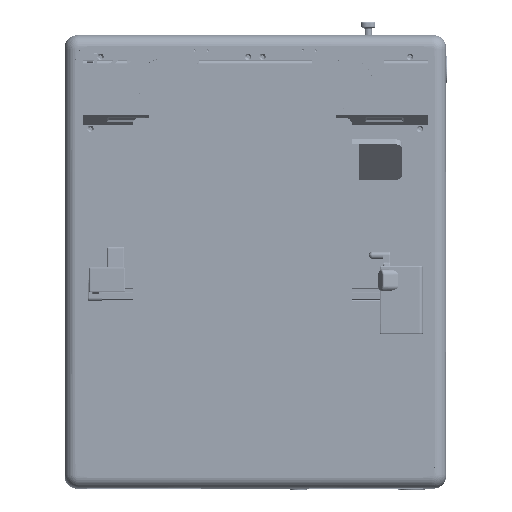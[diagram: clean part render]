
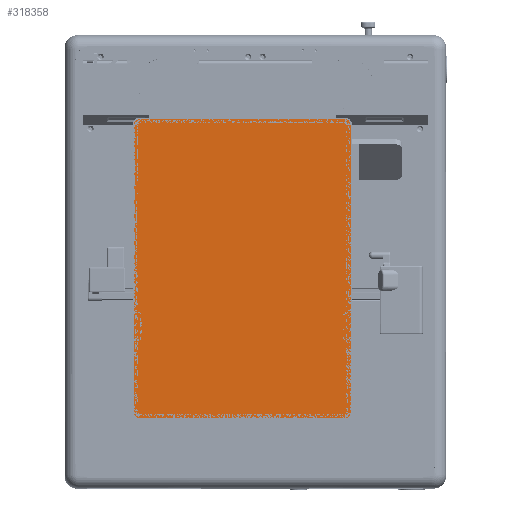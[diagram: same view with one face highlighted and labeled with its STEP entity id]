
A CAD part, front view. The second image highlights one B-rep face of the part: STEP entity #318358.
In plain terms, the highlighted planar face has unit normal (0, -1, 0).
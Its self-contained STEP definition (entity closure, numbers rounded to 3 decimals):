
#2085 = CARTESIAN_POINT ( 'NONE',  ( -182.897, -222.522, 656.878 ) ) ;
#5009 = VERTEX_POINT ( 'NONE', #2085 ) ;
#16185 = AXIS2_PLACEMENT_3D ( 'NONE', #365502, #31050, #328909 ) ;
#18919 = VECTOR ( 'NONE', #388959, 1000. ) ;
#20459 = CARTESIAN_POINT ( 'NONE',  ( -174.897, -222.522, 248.878 ) ) ;
#23859 = CIRCLE ( 'NONE', #16185, 8. ) ;
#28284 = CARTESIAN_POINT ( 'NONE',  ( -182.897, -222.522, 256.878 ) ) ;
#31050 = DIRECTION ( 'NONE',  ( 0., -1., 0. ) ) ;
#31232 = DIRECTION ( 'NONE',  ( 0., 0., -1. ) ) ;
#35067 = CARTESIAN_POINT ( 'NONE',  ( -174.897, -222.522, 256.878 ) ) ;
#36125 = VECTOR ( 'NONE', #31232, 1000. ) ;
#49997 = VERTEX_POINT ( 'NONE', #417604 ) ;
#53185 = VERTEX_POINT ( 'NONE', #156185 ) ;
#71944 = EDGE_CURVE ( 'NONE', #49997, #53185, #246618, .T. ) ;
#80833 = CIRCLE ( 'NONE', #221262, 8. ) ;
#82807 = AXIS2_PLACEMENT_3D ( 'NONE', #166469, #244559, #207916 ) ;
#96081 = DIRECTION ( 'NONE',  ( 0., 0., -1. ) ) ;
#108484 = LINE ( 'NONE', #257445, #18919 ) ;
#111403 = LINE ( 'NONE', #333624, #405465 ) ;
#126940 = EDGE_CURVE ( 'NONE', #130771, #253113, #108484, .T. ) ;
#130771 = VERTEX_POINT ( 'NONE', #20459 ) ;
#150839 = VERTEX_POINT ( 'NONE', #435112 ) ;
#152500 = DIRECTION ( 'NONE',  ( 0., 0., -1. ) ) ;
#156185 = CARTESIAN_POINT ( 'NONE',  ( 110.103, -222.522, 664.878 ) ) ;
#158288 = VERTEX_POINT ( 'NONE', #28284 ) ;
#158626 = EDGE_CURVE ( 'NONE', #206153, #5009, #80833, .T. ) ;
#159688 = PLANE ( 'NONE',  #446117 ) ;
#166469 = CARTESIAN_POINT ( 'NONE',  ( 110.103, -222.522, 656.878 ) ) ;
#186712 = VECTOR ( 'NONE', #250632, 1000. ) ;
#190496 = EDGE_CURVE ( 'NONE', #150839, #49997, #431407, .T. ) ;
#193910 = FACE_OUTER_BOUND ( 'NONE', #402828, .T. ) ;
#205996 = CARTESIAN_POINT ( 'NONE',  ( -174.897, -222.522, 656.878 ) ) ;
#206153 = VERTEX_POINT ( 'NONE', #268680 ) ;
#207916 = DIRECTION ( 'NONE',  ( 0., 0., -1. ) ) ;
#218189 = DIRECTION ( 'NONE',  ( 0., 0., -1. ) ) ;
#221262 = AXIS2_PLACEMENT_3D ( 'NONE', #205996, #433038, #96081 ) ;
#224217 = EDGE_CURVE ( 'NONE', #253113, #150839, #23859, .T. ) ;
#230588 = CARTESIAN_POINT ( 'NONE',  ( -174.897, -222.522, 256.878 ) ) ;
#231539 = ORIENTED_EDGE ( 'NONE', *, *, #280282, .T. ) ;
#234823 = EDGE_CURVE ( 'NONE', #5009, #158288, #324309, .T. ) ;
#244559 = DIRECTION ( 'NONE',  ( 0., -1., 0. ) ) ;
#246618 = CIRCLE ( 'NONE', #82807, 8. ) ;
#250632 = DIRECTION ( 'NONE',  ( 0., 0., 1. ) ) ;
#253113 = VERTEX_POINT ( 'NONE', #444203 ) ;
#257445 = CARTESIAN_POINT ( 'NONE',  ( -174.897, -222.522, 248.878 ) ) ;
#264459 = DIRECTION ( 'NONE',  ( 0., -1., 0. ) ) ;
#268680 = CARTESIAN_POINT ( 'NONE',  ( -174.897, -222.522, 664.878 ) ) ;
#280282 = EDGE_CURVE ( 'NONE', #158288, #130771, #424070, .T. ) ;
#292486 = CARTESIAN_POINT ( 'NONE',  ( -182.897, -222.522, 656.878 ) ) ;
#314562 = ORIENTED_EDGE ( 'NONE', *, *, #71944, .T. ) ;
#318358 = ADVANCED_FACE ( 'NONE', ( #193910 ), #159688, .T. ) ;
#323924 = CARTESIAN_POINT ( 'NONE',  ( 118.103, -222.522, 256.878 ) ) ;
#324309 = LINE ( 'NONE', #292486, #36125 ) ;
#328909 = DIRECTION ( 'NONE',  ( 0., 0., -1. ) ) ;
#333624 = CARTESIAN_POINT ( 'NONE',  ( 110.103, -222.522, 664.878 ) ) ;
#343066 = ORIENTED_EDGE ( 'NONE', *, *, #474533, .T. ) ;
#346003 = AXIS2_PLACEMENT_3D ( 'NONE', #35067, #264459, #218189 ) ;
#365502 = CARTESIAN_POINT ( 'NONE',  ( 110.103, -222.522, 256.878 ) ) ;
#369944 = ORIENTED_EDGE ( 'NONE', *, *, #158626, .T. ) ;
#379511 = DIRECTION ( 'NONE',  ( 0., -1., 0. ) ) ;
#388959 = DIRECTION ( 'NONE',  ( 1., 0., 0. ) ) ;
#389114 = ORIENTED_EDGE ( 'NONE', *, *, #190496, .T. ) ;
#402828 = EDGE_LOOP ( 'NONE', ( #231539, #415959, #458967, #389114, #314562, #343066, #369944, #459867 ) ) ;
#405465 = VECTOR ( 'NONE', #443512, 1000. ) ;
#415959 = ORIENTED_EDGE ( 'NONE', *, *, #126940, .T. ) ;
#417604 = CARTESIAN_POINT ( 'NONE',  ( 118.103, -222.522, 656.878 ) ) ;
#424070 = CIRCLE ( 'NONE', #346003, 8. ) ;
#431407 = LINE ( 'NONE', #323924, #186712 ) ;
#433038 = DIRECTION ( 'NONE',  ( 0., -1., 0. ) ) ;
#435112 = CARTESIAN_POINT ( 'NONE',  ( 118.103, -222.522, 256.878 ) ) ;
#443512 = DIRECTION ( 'NONE',  ( -1., 0., 0. ) ) ;
#444203 = CARTESIAN_POINT ( 'NONE',  ( 110.103, -222.522, 248.878 ) ) ;
#446117 = AXIS2_PLACEMENT_3D ( 'NONE', #230588, #379511, #152500 ) ;
#458967 = ORIENTED_EDGE ( 'NONE', *, *, #224217, .T. ) ;
#459867 = ORIENTED_EDGE ( 'NONE', *, *, #234823, .T. ) ;
#474533 = EDGE_CURVE ( 'NONE', #53185, #206153, #111403, .T. ) ;
